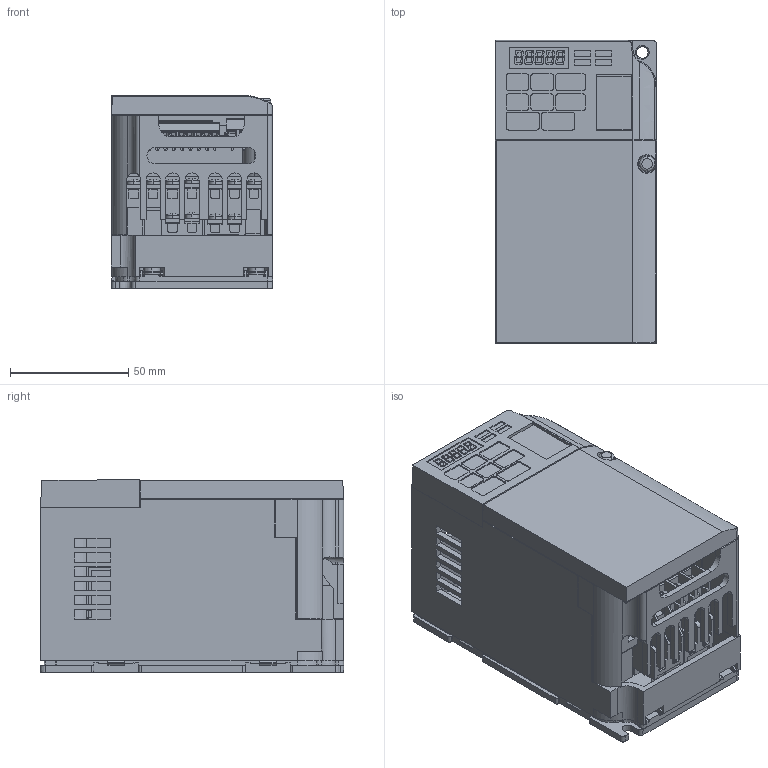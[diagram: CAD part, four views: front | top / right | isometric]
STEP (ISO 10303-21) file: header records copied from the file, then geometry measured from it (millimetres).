
FILE_DESCRIPTION((''),'2;1');
FILE_NAME('VUBA0003JAA_ASM','2010-03-08T',('jmattas'),(''),'PRO/ENGINEER BY PARAMETRIC TECHNOLOGY CORPORATION, 2009380','PRO/ENGINEER BY PARAMETRIC TECHNOLOGY CORPORATION, 2009380','');
FILE_SCHEMA(('CONFIG_CONTROL_DESIGN'));
Products named in the file (6): VUBA0003JAA_BASE; VUBA0003JAA_COVER1; VUBA0003JAA_COVER2; VUBA0003JAA_COVER3; VUBA0003JAA_COVER4; VUBA0003JAA_ASM
Assembly tree (5 placements, depth 2):
  VUBA0003JAA_ASM
    VUBA0003JAA_BASE
    VUBA0003JAA_COVER1
    VUBA0003JAA_COVER2
    VUBA0003JAA_COVER3
    VUBA0003JAA_COVER4
Bounding box: 68 x 128.05 x 81.35 mm (x, y, z)
Volume: 193388.5 mm3; surface area: 132569.6 mm2
Topology: 5 solids, 5 shells, 3827 faces, 10375 edges, 6787 vertices
Faces by surface type: plane 3090, cylinder 498, extrusion 105, torus 54, cone 52, sphere 26, bspline 2
Entity records: 120116 total; most frequent: CARTESIAN_POINT 23100, ORIENTED_EDGE 20698, DIRECTION 18846, EDGE_CURVE 10349, VECTOR 8706, LINE 8601, VERTEX_POINT 6787, AXIS2_PLACEMENT_3D 5070
